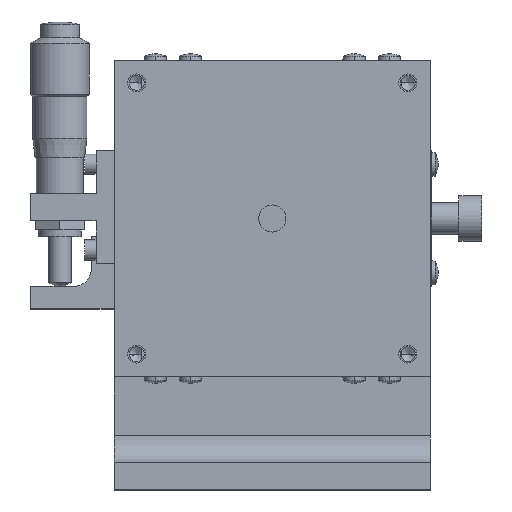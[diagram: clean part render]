
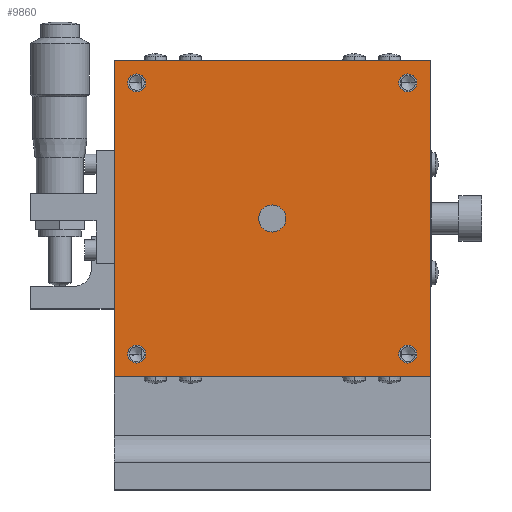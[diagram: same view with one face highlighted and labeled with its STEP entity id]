
A CAD part, top view. The second image highlights one B-rep face of the part: STEP entity #9860.
In plain terms, the highlighted planar face has unit normal (0, 0, 1).
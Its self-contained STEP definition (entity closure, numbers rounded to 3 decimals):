
#283 = CARTESIAN_POINT ( 'NONE',  ( 30., 90., -24. ) ) ;
#284 = DIRECTION ( 'NONE',  ( 0., 0., 1. ) ) ;
#285 = DIRECTION ( 'NONE',  ( 1., 0., 0. ) ) ;
#305 = CARTESIAN_POINT ( 'NONE',  ( 0., 60., -24. ) ) ;
#306 = DIRECTION ( 'NONE',  ( 0., 0., 1. ) ) ;
#307 = DIRECTION ( 'NONE',  ( 1., 0., 0. ) ) ;
#327 = CARTESIAN_POINT ( 'NONE',  ( 30., 30., -24. ) ) ;
#328 = DIRECTION ( 'NONE',  ( 0., 0., 1. ) ) ;
#329 = DIRECTION ( 'NONE',  ( 1., 0., 0. ) ) ;
#350 = CARTESIAN_POINT ( 'NONE',  ( -30., 30., -24. ) ) ;
#351 = DIRECTION ( 'NONE',  ( 0., 0., 1. ) ) ;
#352 = DIRECTION ( 'NONE',  ( 1., 0., 0. ) ) ;
#470 = CARTESIAN_POINT ( 'NONE',  ( -30., 90., -24. ) ) ;
#471 = DIRECTION ( 'NONE',  ( 0., 0., 1. ) ) ;
#472 = DIRECTION ( 'NONE',  ( 1., 0., 0. ) ) ;
#640 = CARTESIAN_POINT ( 'NONE',  ( -32., 90., -24. ) ) ;
#643 = CARTESIAN_POINT ( 'NONE',  ( -3., 60., -24. ) ) ;
#646 = CARTESIAN_POINT ( 'NONE',  ( -32., 30., -24. ) ) ;
#654 = CARTESIAN_POINT ( 'NONE',  ( -28., 30., -24. ) ) ;
#665 = CARTESIAN_POINT ( 'NONE',  ( 28., 90., -24. ) ) ;
#667 = CARTESIAN_POINT ( 'NONE',  ( 3., 60., -24. ) ) ;
#676 = CARTESIAN_POINT ( 'NONE',  ( 28., 30., -24. ) ) ;
#678 = CARTESIAN_POINT ( 'NONE',  ( -28., 90., -24. ) ) ;
#689 = CARTESIAN_POINT ( 'NONE',  ( 32., 30., -24. ) ) ;
#696 = CARTESIAN_POINT ( 'NONE',  ( 32., 90., -24. ) ) ;
#824 = FACE_BOUND ( 'NONE', #4481, .T. ) ;
#828 = FACE_BOUND ( 'NONE', #4444, .T. ) ;
#829 = FACE_BOUND ( 'NONE', #4485, .T. ) ;
#830 = FACE_OUTER_BOUND ( 'NONE', #4404, .T. ) ;
#832 = FACE_BOUND ( 'NONE', #4467, .T. ) ;
#833 = CARTESIAN_POINT ( 'NONE',  ( 35., 25., -24. ) ) ;
#834 = FACE_BOUND ( 'NONE', #4478, .T. ) ;
#836 = PLANE ( 'NONE',  #1579 ) ;
#837 = DIRECTION ( 'NONE',  ( 0., 0., 1. ) ) ;
#838 = DIRECTION ( 'NONE',  ( 1., 0., 0. ) ) ;
#1173 = ORIENTED_EDGE ( 'NONE', *, *, #1923, .F. ) ;
#1174 = ORIENTED_EDGE ( 'NONE', *, *, #1924, .F. ) ;
#1175 = ORIENTED_EDGE ( 'NONE', *, *, #8919, .F. ) ;
#1176 = ORIENTED_EDGE ( 'NONE', *, *, #8926, .F. ) ;
#1177 = ORIENTED_EDGE ( 'NONE', *, *, #1430, .F. ) ;
#1178 = ORIENTED_EDGE ( 'NONE', *, *, #8963, .F. ) ;
#1226 = ORIENTED_EDGE ( 'NONE', *, *, #1432, .F. ) ;
#1227 = ORIENTED_EDGE ( 'NONE', *, *, #8911, .F. ) ;
#1228 = ORIENTED_EDGE ( 'NONE', *, *, #1434, .T. ) ;
#1229 = ORIENTED_EDGE ( 'NONE', *, *, #1914, .F. ) ;
#1230 = ORIENTED_EDGE ( 'NONE', *, *, #1431, .F. ) ;
#1235 = ORIENTED_EDGE ( 'NONE', *, *, #8905, .F. ) ;
#1246 = ORIENTED_EDGE ( 'NONE', *, *, #1920, .T. ) ;
#1286 = ORIENTED_EDGE ( 'NONE', *, *, #1913, .F. ) ;
#1430 = EDGE_CURVE ( 'NONE', #9057, #9020, #9568, .T. ) ;
#1431 = EDGE_CURVE ( 'NONE', #9075, #9044, #9513, .T. ) ;
#1432 = EDGE_CURVE ( 'NONE', #9046, #9024, #9549, .T. ) ;
#1434 = EDGE_CURVE ( 'NONE', #7000, #7005, #6122, .T. ) ;
#1579 = AXIS2_PLACEMENT_3D ( 'NONE', #833, #837, #838 ) ;
#1913 = EDGE_CURVE ( 'NONE', #6999, #6997, #6877, .T. ) ;
#1914 = EDGE_CURVE ( 'NONE', #6997, #7005, #6876, .T. ) ;
#1920 = EDGE_CURVE ( 'NONE', #6999, #7000, #6899, .T. ) ;
#1923 = EDGE_CURVE ( 'NONE', #9068, #9055, #3499, .T. ) ;
#1924 = EDGE_CURVE ( 'NONE', #9033, #9023, #3501, .T. ) ;
#3487 = VECTOR ( 'NONE', #6881, 1000. ) ;
#3489 = VECTOR ( 'NONE', #6883, 1000. ) ;
#3497 = VECTOR ( 'NONE', #6901, 1000. ) ;
#3499 = CIRCLE ( 'NONE', #3504, 2. ) ;
#3501 = CIRCLE ( 'NONE', #3506, 2. ) ;
#3504 = AXIS2_PLACEMENT_3D ( 'NONE', #6910, #6911, #6912 ) ;
#3506 = AXIS2_PLACEMENT_3D ( 'NONE', #6914, #6915, #6916 ) ;
#4404 = EDGE_LOOP ( 'NONE', ( #1228, #1229, #1286, #1246 ) ) ;
#4444 = EDGE_LOOP ( 'NONE', ( #1226, #1227 ) ) ;
#4467 = EDGE_LOOP ( 'NONE', ( #1177, #1178 ) ) ;
#4478 = EDGE_LOOP ( 'NONE', ( #1230, #1235 ) ) ;
#4481 = EDGE_LOOP ( 'NONE', ( #1174, #1176 ) ) ;
#4485 = EDGE_LOOP ( 'NONE', ( #1173, #1175 ) ) ;
#6116 = CARTESIAN_POINT ( 'NONE',  ( -30., 90., -24. ) ) ;
#6117 = DIRECTION ( 'NONE',  ( 0., 0., 1. ) ) ;
#6118 = DIRECTION ( 'NONE',  ( 1., 0., 0. ) ) ;
#6119 = CARTESIAN_POINT ( 'NONE',  ( 30., 90., -24. ) ) ;
#6120 = DIRECTION ( 'NONE',  ( 0., 0., 1. ) ) ;
#6121 = DIRECTION ( 'NONE',  ( 1., 0., 0. ) ) ;
#6122 = LINE ( 'NONE', #6129, #9579 ) ;
#6124 = CARTESIAN_POINT ( 'NONE',  ( 0., 60., -24. ) ) ;
#6125 = DIRECTION ( 'NONE',  ( 0., 0., 1. ) ) ;
#6126 = DIRECTION ( 'NONE',  ( 1., 0., 0. ) ) ;
#6129 = CARTESIAN_POINT ( 'NONE',  ( 35., 25., -24. ) ) ;
#6131 = DIRECTION ( 'NONE',  ( 0., 1., 0. ) ) ;
#6866 = CARTESIAN_POINT ( 'NONE',  ( -35., 25., -24. ) ) ;
#6876 = LINE ( 'NONE', #6882, #3489 ) ;
#6877 = LINE ( 'NONE', #6866, #3487 ) ;
#6881 = DIRECTION ( 'NONE',  ( 0., 1., 0. ) ) ;
#6882 = CARTESIAN_POINT ( 'NONE',  ( 35., 95., -24. ) ) ;
#6883 = DIRECTION ( 'NONE',  ( 1., 0., 0. ) ) ;
#6899 = LINE ( 'NONE', #6900, #3497 ) ;
#6900 = CARTESIAN_POINT ( 'NONE',  ( 35., 25., -24. ) ) ;
#6901 = DIRECTION ( 'NONE',  ( 1., 0., 0. ) ) ;
#6910 = CARTESIAN_POINT ( 'NONE',  ( 30., 30., -24. ) ) ;
#6911 = DIRECTION ( 'NONE',  ( 0., 0., 1. ) ) ;
#6912 = DIRECTION ( 'NONE',  ( 1., 0., 0. ) ) ;
#6914 = CARTESIAN_POINT ( 'NONE',  ( -30., 30., -24. ) ) ;
#6915 = DIRECTION ( 'NONE',  ( 0., 0., 1. ) ) ;
#6916 = DIRECTION ( 'NONE',  ( 1., 0., 0. ) ) ;
#6997 = VERTEX_POINT ( 'NONE', #7991 ) ;
#6999 = VERTEX_POINT ( 'NONE', #7993 ) ;
#7000 = VERTEX_POINT ( 'NONE', #7994 ) ;
#7005 = VERTEX_POINT ( 'NONE', #7999 ) ;
#7991 = CARTESIAN_POINT ( 'NONE',  ( -35., 95., -24. ) ) ;
#7993 = CARTESIAN_POINT ( 'NONE',  ( -35., 25., -24. ) ) ;
#7994 = CARTESIAN_POINT ( 'NONE',  ( 35., 25., -24. ) ) ;
#7999 = CARTESIAN_POINT ( 'NONE',  ( 35., 95., -24. ) ) ;
#8905 = EDGE_CURVE ( 'NONE', #9044, #9075, #9233, .T. ) ;
#8911 = EDGE_CURVE ( 'NONE', #9024, #9046, #9246, .T. ) ;
#8919 = EDGE_CURVE ( 'NONE', #9055, #9068, #9257, .T. ) ;
#8926 = EDGE_CURVE ( 'NONE', #9023, #9033, #9267, .T. ) ;
#8963 = EDGE_CURVE ( 'NONE', #9020, #9057, #9317, .T. ) ;
#9020 = VERTEX_POINT ( 'NONE', #640 ) ;
#9023 = VERTEX_POINT ( 'NONE', #646 ) ;
#9024 = VERTEX_POINT ( 'NONE', #643 ) ;
#9033 = VERTEX_POINT ( 'NONE', #654 ) ;
#9044 = VERTEX_POINT ( 'NONE', #665 ) ;
#9046 = VERTEX_POINT ( 'NONE', #667 ) ;
#9055 = VERTEX_POINT ( 'NONE', #676 ) ;
#9057 = VERTEX_POINT ( 'NONE', #678 ) ;
#9068 = VERTEX_POINT ( 'NONE', #689 ) ;
#9075 = VERTEX_POINT ( 'NONE', #696 ) ;
#9233 = CIRCLE ( 'NONE', #9238, 2. ) ;
#9238 = AXIS2_PLACEMENT_3D ( 'NONE', #283, #284, #285 ) ;
#9246 = CIRCLE ( 'NONE', #9248, 3. ) ;
#9248 = AXIS2_PLACEMENT_3D ( 'NONE', #305, #306, #307 ) ;
#9257 = CIRCLE ( 'NONE', #9259, 2. ) ;
#9259 = AXIS2_PLACEMENT_3D ( 'NONE', #327, #328, #329 ) ;
#9267 = CIRCLE ( 'NONE', #9270, 2. ) ;
#9270 = AXIS2_PLACEMENT_3D ( 'NONE', #350, #351, #352 ) ;
#9317 = CIRCLE ( 'NONE', #9319, 2. ) ;
#9319 = AXIS2_PLACEMENT_3D ( 'NONE', #470, #471, #472 ) ;
#9513 = CIRCLE ( 'NONE', #9571, 2. ) ;
#9549 = CIRCLE ( 'NONE', #9580, 3. ) ;
#9568 = CIRCLE ( 'NONE', #9572, 2. ) ;
#9571 = AXIS2_PLACEMENT_3D ( 'NONE', #6119, #6120, #6121 ) ;
#9572 = AXIS2_PLACEMENT_3D ( 'NONE', #6116, #6117, #6118 ) ;
#9579 = VECTOR ( 'NONE', #6131, 1000. ) ;
#9580 = AXIS2_PLACEMENT_3D ( 'NONE', #6124, #6125, #6126 ) ;
#9860 = ADVANCED_FACE ( 'NONE', ( #829, #824, #832, #834, #828, #830 ), #836, .T. ) ;
